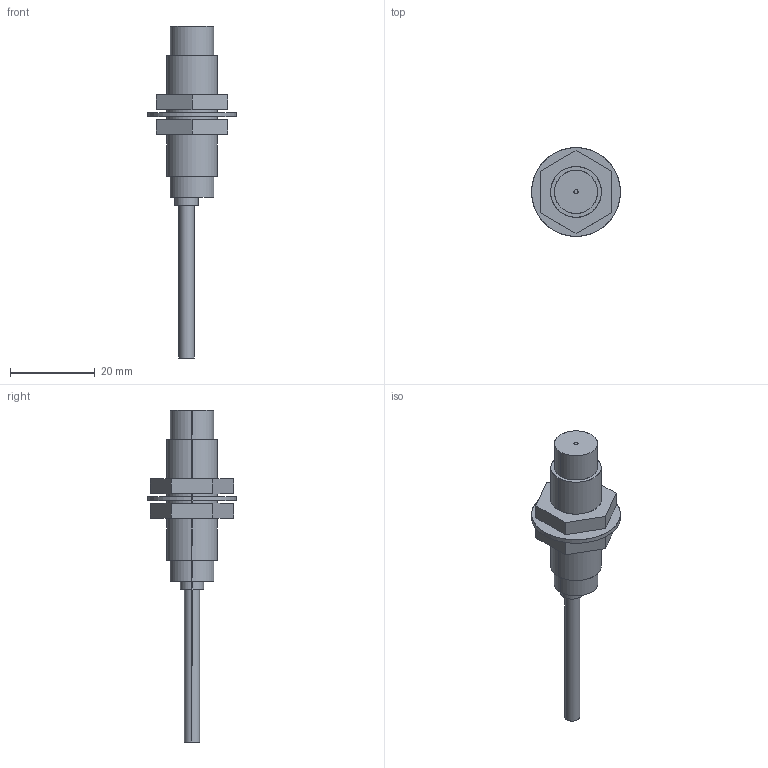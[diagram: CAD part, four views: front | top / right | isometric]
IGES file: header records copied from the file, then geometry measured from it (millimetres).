
Start section: SolidWorks IGES FILE using analytic representation for surfaces
Global section: file name: \\intra-srv04\開発データ\CAD_Data\CAD委員会\3D電子ｶﾀﾛｸﾞ\製品カタログ（新）\0_IGES\GX-12MLU.IGS,41HSolidWorks 2004; native system: by SolidWorks Corporation; preprocessor: Version 5.3; author: yk0651; date: 050907.101529; units: millimetre
Bounding box: 21 x 21 x 78.5 mm (x, y, z)
Surface area: 3925.7 mm2 (no closed solid volume)
Topology: 0 solids, 0 shells, 48 faces, 800 edges, 800 vertices
Faces by surface type: bspline 26, revolution 22
